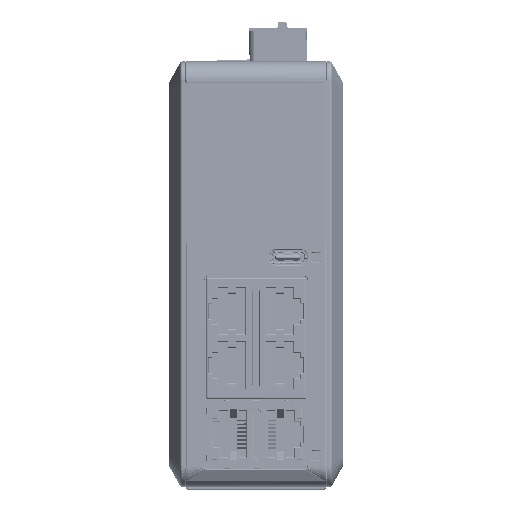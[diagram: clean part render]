
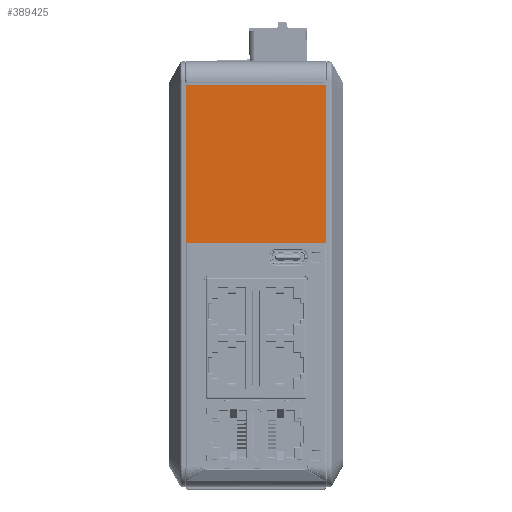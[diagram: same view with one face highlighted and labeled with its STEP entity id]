
A CAD part, top view. The second image highlights one B-rep face of the part: STEP entity #389425.
In plain terms, the highlighted planar face has unit normal (0, 0, 1).
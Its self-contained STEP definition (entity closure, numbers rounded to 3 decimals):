
#49838 = CARTESIAN_POINT ( 'NONE',  ( -18., 63.58, -0.843 ) ) ;
#49845 = DIRECTION ( 'NONE',  ( 1., 0., 0. ) ) ;
#49950 = LINE ( 'NONE', #49838, #103486 ) ;
#103486 = VECTOR ( 'NONE', #49845, 1000. ) ;
#170223 = AXIS2_PLACEMENT_3D ( 'NONE', #180713, #180674, #180679 ) ;
#170905 = DIRECTION ( 'NONE',  ( 0., 1., 0. ) ) ;
#170912 = LINE ( 'NONE', #171119, #251304 ) ;
#170986 = CARTESIAN_POINT ( 'NONE',  ( 18., 104.3, -0.843 ) ) ;
#171095 = LINE ( 'NONE', #170986, #251317 ) ;
#171119 = CARTESIAN_POINT ( 'NONE',  ( -18., 104.3, -0.843 ) ) ;
#171125 = DIRECTION ( 'NONE',  ( -1., 0., 0. ) ) ;
#176571 = ORIENTED_EDGE ( 'NONE', *, *, #224641, .T. ) ;
#176635 = ORIENTED_EDGE ( 'NONE', *, *, #181424, .T. ) ;
#176687 = ORIENTED_EDGE ( 'NONE', *, *, #224635, .T. ) ;
#176715 = ORIENTED_EDGE ( 'NONE', *, *, #226439, .T. ) ;
#180674 = DIRECTION ( 'NONE',  ( 0., 0., 1. ) ) ;
#180679 = DIRECTION ( 'NONE',  ( 1., 0., 0. ) ) ;
#180683 = FACE_OUTER_BOUND ( 'NONE', #381971, .T. ) ;
#180710 = PLANE ( 'NONE',  #170223 ) ;
#180713 = CARTESIAN_POINT ( 'NONE',  ( -18., 63.58, -0.843 ) ) ;
#181424 = EDGE_CURVE ( 'NONE', #359307, #358967, #49950, .T. ) ;
#198347 = LINE ( 'NONE', #198385, #253887 ) ;
#198385 = CARTESIAN_POINT ( 'NONE',  ( -18., 104.3, -0.843 ) ) ;
#198541 = DIRECTION ( 'NONE',  ( 0., -1., 0. ) ) ;
#224635 = EDGE_CURVE ( 'NONE', #359050, #359162, #170912, .T. ) ;
#224641 = EDGE_CURVE ( 'NONE', #358967, #359050, #171095, .T. ) ;
#226439 = EDGE_CURVE ( 'NONE', #359162, #359307, #198347, .T. ) ;
#251304 = VECTOR ( 'NONE', #171125, 1000. ) ;
#251317 = VECTOR ( 'NONE', #170905, 1000. ) ;
#253887 = VECTOR ( 'NONE', #198541, 1000. ) ;
#271750 = CARTESIAN_POINT ( 'NONE',  ( 18., 63.58, -0.843 ) ) ;
#271784 = CARTESIAN_POINT ( 'NONE',  ( -18., 104.3, -0.843 ) ) ;
#271847 = CARTESIAN_POINT ( 'NONE',  ( 18., 104.3, -0.843 ) ) ;
#271907 = CARTESIAN_POINT ( 'NONE',  ( -18., 63.58, -0.843 ) ) ;
#358967 = VERTEX_POINT ( 'NONE', #271750 ) ;
#359050 = VERTEX_POINT ( 'NONE', #271847 ) ;
#359162 = VERTEX_POINT ( 'NONE', #271784 ) ;
#359307 = VERTEX_POINT ( 'NONE', #271907 ) ;
#381971 = EDGE_LOOP ( 'NONE', ( #176715, #176635, #176571, #176687 ) ) ;
#389425 = ADVANCED_FACE ( 'NONE', ( #180683 ), #180710, .T. ) ;
